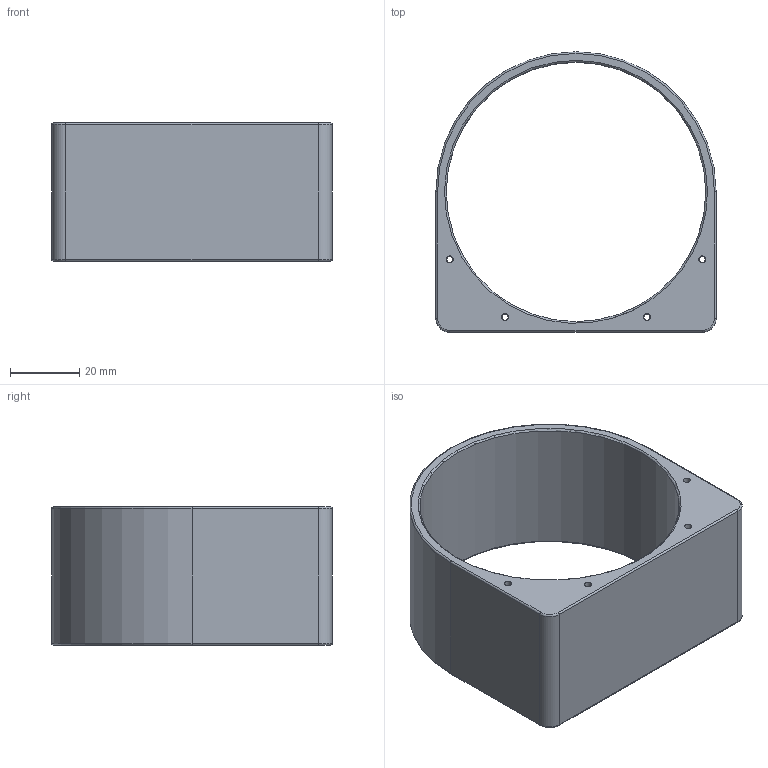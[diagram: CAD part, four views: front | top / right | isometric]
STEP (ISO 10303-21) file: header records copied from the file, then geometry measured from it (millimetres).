
FILE_DESCRIPTION(/* description */ ('STEP AP242','CAx-IF Rec.Pracs.---Representation and Presentation of Product Manufacturing Information (PMI)---4.0---2014-10-13','CAx-IF Rec.Pracs.---3D Tessellated Geometry---0.4---2014-09-14','2;1'),/* implementation_level */ '2;1');
FILE_NAME(/* name */ '659507f158b8e714b34c0370',/* time_stamp */ '2024-01-03T07:08:34Z',/* author */ (''),/* organization */ (''),/* preprocessor_version */ 'ST-DEVELOPER v19.4',/* originating_system */ ' ',/* authorisation */ ' ');
FILE_SCHEMA (('AP242_MANAGED_MODEL_BASED_3D_ENGINEERING_MIM_LF { 1 0 10303 442 1 1 4 }'));
Length unit declared in the file: metre
Products named in the file (1): Profile
Bounding box: 81 x 81 x 40 mm (x, y, z)
Volume: 56813.7 mm3; surface area: 24390.5 mm2
Topology: 1 solids, 1 shells, 35 faces, 79 edges, 46 vertices
Faces by surface type: cylinder 14, torus 8, cone 8, plane 5
Full cylindrical faces by diameter (mm): 1.796 x4, 75 x1
Entity records: 926 total; most frequent: DIRECTION 178, CARTESIAN_POINT 142, ORIENTED_EDGE 124, AXIS2_PLACEMENT_3D 80, EDGE_CURVE 62, EDGE_LOOP 60, FACE_BOUND 60, CIRCLE 44
